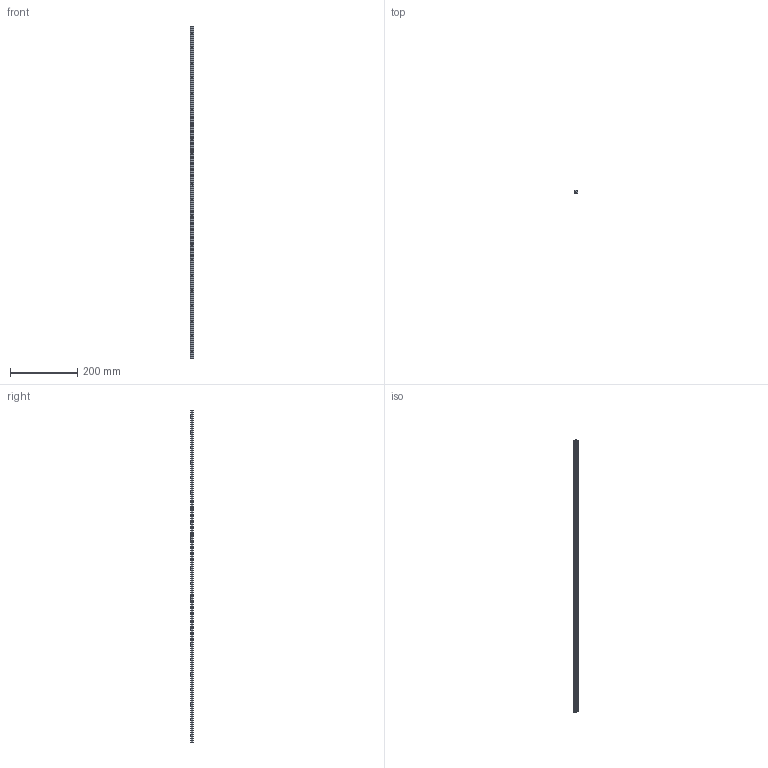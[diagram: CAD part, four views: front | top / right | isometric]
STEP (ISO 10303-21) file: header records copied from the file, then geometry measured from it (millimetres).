
FILE_DESCRIPTION(('STEP AP203'),'1');
FILE_NAME('slide_nmsel986p2.stp','2022-07-04T01:14:30',('TraceParts'),('TraceParts S.A.'),'Spatial InterOp 3D',' ',' ');
FILE_SCHEMA(('CONFIG_CONTROL_DESIGN'));
Length unit declared in the file: millimetre
Products named in the file (1): 1
Bounding box: 10.82 x 8.1 x 986 mm (x, y, z)
Volume: 63476.5 mm3; surface area: 42100.3 mm2
Topology: 1 solids, 1 shells, 135 faces, 333 edges, 222 vertices
Faces by surface type: cylinder 99, plane 36
Entity records: 4237 total; most frequent: DIRECTION 803, CARTESIAN_POINT 691, ORIENTED_EDGE 666, AXIS2_PLACEMENT_3D 334, EDGE_CURVE 333, VERTEX_POINT 222, EDGE_LOOP 201, CIRCLE 198
